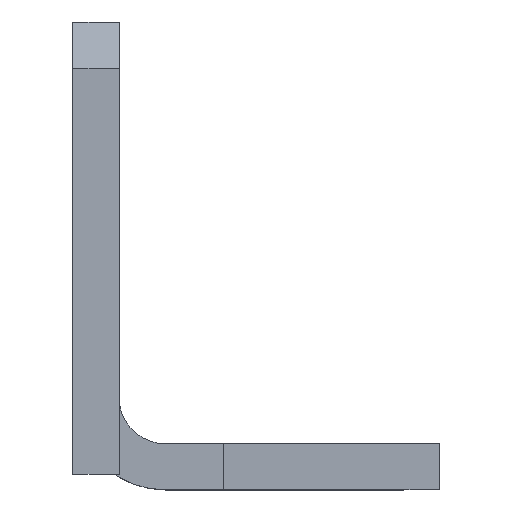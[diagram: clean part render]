
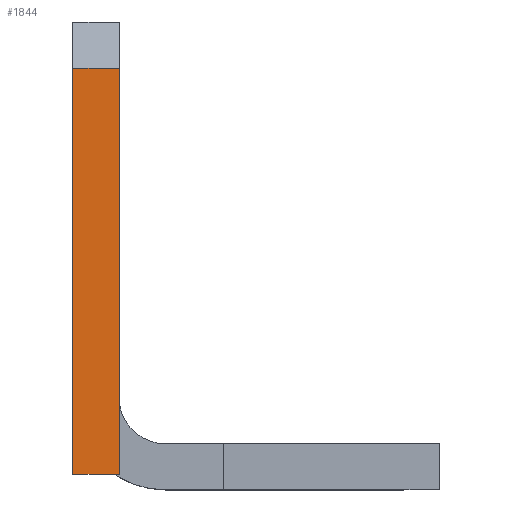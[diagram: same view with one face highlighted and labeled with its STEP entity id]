
A CAD part, top view. The second image highlights one B-rep face of the part: STEP entity #1844.
In plain terms, the highlighted planar face has unit normal (0, 0, 1).
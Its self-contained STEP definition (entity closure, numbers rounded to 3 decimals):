
#32 = PLANE('',#33);
#33 = AXIS2_PLACEMENT_3D('',#34,#35,#36);
#34 = CARTESIAN_POINT('',(-19.4,25.1,-40.5));
#35 = DIRECTION('',(1.,0.,-0.));
#36 = DIRECTION('',(0.,-1.,0.));
#57 = VERTEX_POINT('',#58);
#58 = CARTESIAN_POINT('',(-19.4,23.6,-31.9));
#72 = PLANE('',#73);
#73 = AXIS2_PLACEMENT_3D('',#74,#75,#76);
#74 = CARTESIAN_POINT('',(-19.4,25.1,-33.4));
#75 = DIRECTION('',(0.,-0.707,-0.707));
#76 = DIRECTION('',(0.,-0.707,0.707));
#84 = EDGE_CURVE('',#57,#85,#87,.T.);
#85 = VERTEX_POINT('',#86);
#86 = CARTESIAN_POINT('',(-19.4,10.4,-31.9));
#87 = SURFACE_CURVE('',#88,(#92,#99),.PCURVE_S1.);
#88 = LINE('',#89,#90);
#89 = CARTESIAN_POINT('',(-19.4,23.6,-31.9));
#90 = VECTOR('',#91,1.);
#91 = DIRECTION('',(0.,-1.,0.));
#92 = PCURVE('',#32,#93);
#93 = DEFINITIONAL_REPRESENTATION('',(#94),#98);
#94 = LINE('',#95,#96);
#95 = CARTESIAN_POINT('',(1.5,-8.6));
#96 = VECTOR('',#97,1.);
#97 = DIRECTION('',(1.,0.));
#98 = ( GEOMETRIC_REPRESENTATION_CONTEXT(2) 
PARAMETRIC_REPRESENTATION_CONTEXT() REPRESENTATION_CONTEXT('2D SPACE',''
  ) );
#99 = PCURVE('',#100,#105);
#100 = PLANE('',#101);
#101 = AXIS2_PLACEMENT_3D('',#102,#103,#104);
#102 = CARTESIAN_POINT('',(-19.4,23.6,-31.9));
#103 = DIRECTION('',(0.,0.,-1.));
#104 = DIRECTION('',(0.,-1.,0.));
#105 = DEFINITIONAL_REPRESENTATION('',(#106),#110);
#106 = LINE('',#107,#108);
#107 = CARTESIAN_POINT('',(0.,-0.));
#108 = VECTOR('',#109,1.);
#109 = DIRECTION('',(1.,0.));
#110 = ( GEOMETRIC_REPRESENTATION_CONTEXT(2) 
PARAMETRIC_REPRESENTATION_CONTEXT() REPRESENTATION_CONTEXT('2D SPACE',''
  ) );
#128 = PLANE('',#129);
#129 = AXIS2_PLACEMENT_3D('',#130,#131,#132);
#130 = CARTESIAN_POINT('',(-19.4,10.4,-31.9));
#131 = DIRECTION('',(-0.,1.,0.));
#132 = DIRECTION('',(0.,0.,-1.));
#436 = PLANE('',#437);
#437 = AXIS2_PLACEMENT_3D('',#438,#439,#440);
#438 = CARTESIAN_POINT('',(-17.9,12.9,-40.5));
#439 = DIRECTION('',(-1.,0.,0.));
#440 = DIRECTION('',(0.,1.,0.));
#1799 = EDGE_CURVE('',#85,#1800,#1802,.T.);
#1800 = VERTEX_POINT('',#1801);
#1801 = CARTESIAN_POINT('',(-17.9,10.4,-31.9));
#1802 = SURFACE_CURVE('',#1803,(#1807,#1814),.PCURVE_S1.);
#1803 = LINE('',#1804,#1805);
#1804 = CARTESIAN_POINT('',(-19.4,10.4,-31.9));
#1805 = VECTOR('',#1806,1.);
#1806 = DIRECTION('',(1.,0.,0.));
#1807 = PCURVE('',#128,#1808);
#1808 = DEFINITIONAL_REPRESENTATION('',(#1809),#1813);
#1809 = LINE('',#1810,#1811);
#1810 = CARTESIAN_POINT('',(0.,0.));
#1811 = VECTOR('',#1812,1.);
#1812 = DIRECTION('',(0.,-1.));
#1813 = ( GEOMETRIC_REPRESENTATION_CONTEXT(2) 
PARAMETRIC_REPRESENTATION_CONTEXT() REPRESENTATION_CONTEXT('2D SPACE',''
  ) );
#1814 = PCURVE('',#100,#1815);
#1815 = DEFINITIONAL_REPRESENTATION('',(#1816),#1820);
#1816 = LINE('',#1817,#1818);
#1817 = CARTESIAN_POINT('',(13.2,0.));
#1818 = VECTOR('',#1819,1.);
#1819 = DIRECTION('',(0.,-1.));
#1820 = ( GEOMETRIC_REPRESENTATION_CONTEXT(2) 
PARAMETRIC_REPRESENTATION_CONTEXT() REPRESENTATION_CONTEXT('2D SPACE',''
  ) );
#1844 = ADVANCED_FACE('',(#1845),#100,.F.);
#1845 = FACE_BOUND('',#1846,.F.);
#1846 = EDGE_LOOP('',(#1847,#1870,#1891,#1892));
#1847 = ORIENTED_EDGE('',*,*,#1848,.T.);
#1848 = EDGE_CURVE('',#57,#1849,#1851,.T.);
#1849 = VERTEX_POINT('',#1850);
#1850 = CARTESIAN_POINT('',(-17.9,23.6,-31.9));
#1851 = SURFACE_CURVE('',#1852,(#1856,#1863),.PCURVE_S1.);
#1852 = LINE('',#1853,#1854);
#1853 = CARTESIAN_POINT('',(-19.4,23.6,-31.9));
#1854 = VECTOR('',#1855,1.);
#1855 = DIRECTION('',(1.,0.,0.));
#1856 = PCURVE('',#100,#1857);
#1857 = DEFINITIONAL_REPRESENTATION('',(#1858),#1862);
#1858 = LINE('',#1859,#1860);
#1859 = CARTESIAN_POINT('',(0.,-0.));
#1860 = VECTOR('',#1861,1.);
#1861 = DIRECTION('',(0.,-1.));
#1862 = ( GEOMETRIC_REPRESENTATION_CONTEXT(2) 
PARAMETRIC_REPRESENTATION_CONTEXT() REPRESENTATION_CONTEXT('2D SPACE',''
  ) );
#1863 = PCURVE('',#72,#1864);
#1864 = DEFINITIONAL_REPRESENTATION('',(#1865),#1869);
#1865 = LINE('',#1866,#1867);
#1866 = CARTESIAN_POINT('',(2.121,0.));
#1867 = VECTOR('',#1868,1.);
#1868 = DIRECTION('',(0.,-1.));
#1869 = ( GEOMETRIC_REPRESENTATION_CONTEXT(2) 
PARAMETRIC_REPRESENTATION_CONTEXT() REPRESENTATION_CONTEXT('2D SPACE',''
  ) );
#1870 = ORIENTED_EDGE('',*,*,#1871,.T.);
#1871 = EDGE_CURVE('',#1849,#1800,#1872,.T.);
#1872 = SURFACE_CURVE('',#1873,(#1877,#1884),.PCURVE_S1.);
#1873 = LINE('',#1874,#1875);
#1874 = CARTESIAN_POINT('',(-17.9,23.6,-31.9));
#1875 = VECTOR('',#1876,1.);
#1876 = DIRECTION('',(0.,-1.,0.));
#1877 = PCURVE('',#100,#1878);
#1878 = DEFINITIONAL_REPRESENTATION('',(#1879),#1883);
#1879 = LINE('',#1880,#1881);
#1880 = CARTESIAN_POINT('',(0.,-1.5));
#1881 = VECTOR('',#1882,1.);
#1882 = DIRECTION('',(1.,0.));
#1883 = ( GEOMETRIC_REPRESENTATION_CONTEXT(2) 
PARAMETRIC_REPRESENTATION_CONTEXT() REPRESENTATION_CONTEXT('2D SPACE',''
  ) );
#1884 = PCURVE('',#436,#1885);
#1885 = DEFINITIONAL_REPRESENTATION('',(#1886),#1890);
#1886 = LINE('',#1887,#1888);
#1887 = CARTESIAN_POINT('',(10.7,-8.6));
#1888 = VECTOR('',#1889,1.);
#1889 = DIRECTION('',(-1.,0.));
#1890 = ( GEOMETRIC_REPRESENTATION_CONTEXT(2) 
PARAMETRIC_REPRESENTATION_CONTEXT() REPRESENTATION_CONTEXT('2D SPACE',''
  ) );
#1891 = ORIENTED_EDGE('',*,*,#1799,.F.);
#1892 = ORIENTED_EDGE('',*,*,#84,.F.);
